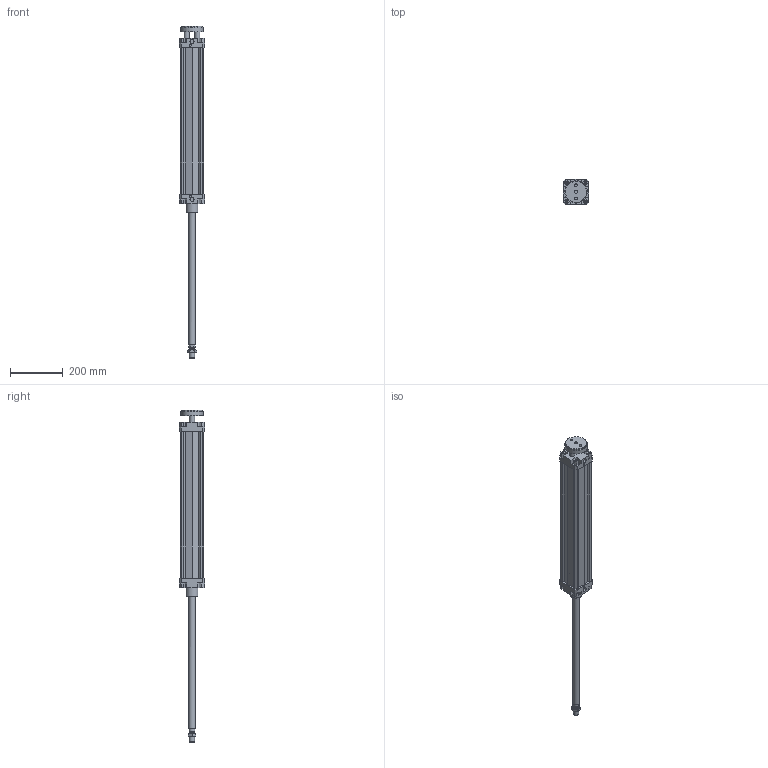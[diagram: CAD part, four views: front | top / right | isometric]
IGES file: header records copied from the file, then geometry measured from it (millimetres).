
Global section: file name: 132#_080_0500_02; native system: Autodesk Inventor 2014; preprocessor: unknown; author: A. Manieri; date: 20161006.162537; units: millimetre
Bounding box: 95 x 95 x 1260 mm (x, y, z)
Volume: 2657189.5 mm3; surface area: 588648.8 mm2
Topology: 3 solids, 3 shells, 220 faces, 589 edges, 397 vertices
Faces by surface type: bspline 220
